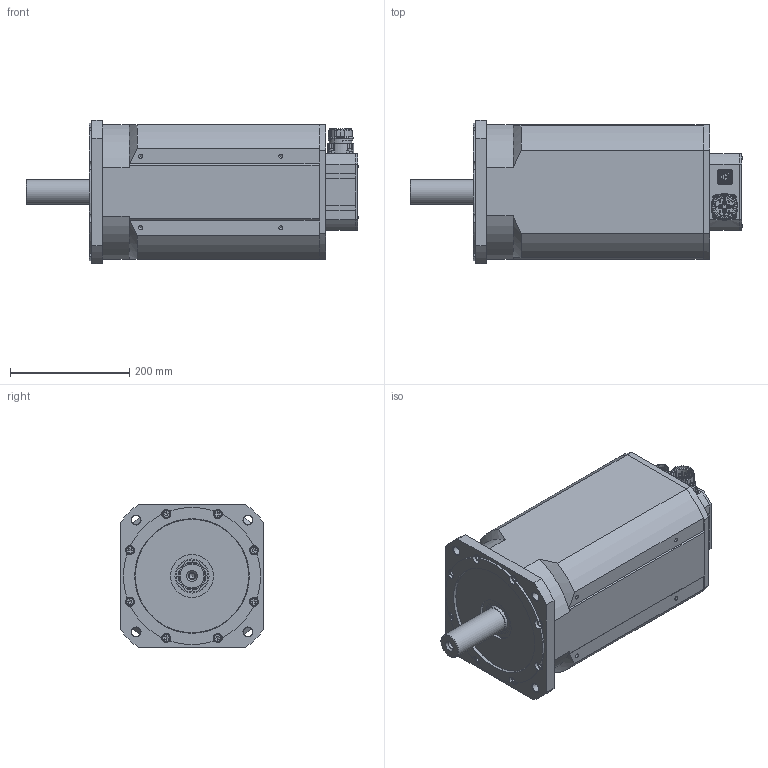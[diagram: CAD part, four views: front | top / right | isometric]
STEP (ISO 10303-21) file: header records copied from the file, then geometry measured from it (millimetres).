
FILE_DESCRIPTION(/* description */ (''),/* implementation_level */ '2;1');
FILE_NAME(/* name */ 'C:\PDF_output\T8000 00 Z_0930_8P_12P.stp',/* time_stamp */ '2024-04-19T11:41:51+02:00',/* author */ ('oslejsek'),/* organization */ (''),/* preprocessor_version */ 'ST-DEVELOPER v18.1',/* originating_system */ 'Autodesk Inventor 2021',/* authorisation */ '');
FILE_SCHEMA (('AUTOMOTIVE_DESIGN { 1 0 10303 214 3 1 1 }'));
Products named in the file (5): T8000 00 Z_0930_8P_12P; T8000 00 Z_0930_rear; 127344; 115772; T8000 00 Z_front_42_110
Assembly tree (4 placements, depth 2):
  T8000 00 Z_0930_8P_12P
    T8000 00 Z_0930_rear
    127344
    115772
    T8000 00 Z_front_42_110
Bounding box: 556.29 x 240 x 240 mm (x, y, z)
Volume: 19002051.6 mm3; surface area: 689448.2 mm2
Topology: 5 solids, 64 shells, 2609 faces, 6677 edges, 4319 vertices
Faces by surface type: plane 923, cylinder 794, cone 305, bspline 297, torus 251, sphere 39
Full cylindrical faces by diameter (mm): 1 x12, 1.18 x12, 2 x4, 2.013 x4, 2.208 x4, 2.4 x4, 2.459 x6, 2.5 x4, 2.7 x4, 3 x3, 3.2 x3, 3.242 x14, 3.545 x4, 3.6 x5, 3.95 x4, 4 x15, 4.3 x8, 4.917 x9, 5 x4, 5.7 x3, 6 x9, 6.4 x1, 6.5 x8, 6.647 x16, 7 x4, 7.5 x4, 8 x12, 8.4 x8, 8.5 x4, 9 x3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
Entity records: 95417 total; most frequent: CARTESIAN_POINT 29971, ORIENTED_EDGE 13174, DIRECTION 13116, EDGE_CURVE 6587, AXIS2_PLACEMENT_3D 5304, VERTEX_POINT 4337, EDGE_LOOP 2978, CIRCLE 2758
